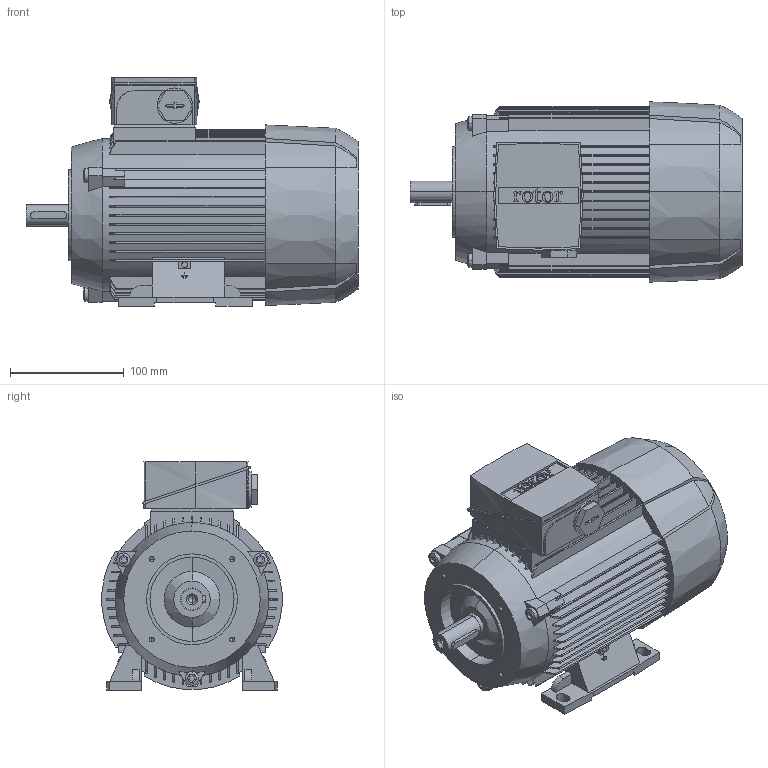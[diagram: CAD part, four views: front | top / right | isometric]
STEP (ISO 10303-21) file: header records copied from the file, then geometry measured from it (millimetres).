
FILE_DESCRIPTION (( 'STEP AP214' ), '1' );
FILE_NAME ('6RN80M04E12 IM2141-A.STEP', '2017-03-13T11:13:36', ( 'rotor' ), ( 'Hewlett-Packard Company' ), 'SwSTEP 2.0', 'SolidWorks 2015', '' );
FILE_SCHEMA (( 'AUTOMOTIVE_DESIGN' ));
Length unit declared in the file: millimetre
Products named in the file (1): 6RN80M04E12 IM2141-A
Bounding box: 292 x 158.5 x 201 mm (x, y, z)
Volume: 4424419.8 mm3; surface area: 287929 mm2
Topology: 7 solids, 7 shells, 667 faces, 1853 edges, 1218 vertices
Faces by surface type: plane 402, cylinder 133, bspline 101, cone 31
Entity records: 30816 total; most frequent: CARTESIAN_POINT 7869, ORIENTED_EDGE 3686, DIRECTION 3081, EDGE_CURVE 1843, VERTEX_POINT 1218, VECTOR 1141, LINE 1141, AXIS2_PLACEMENT_3D 970
